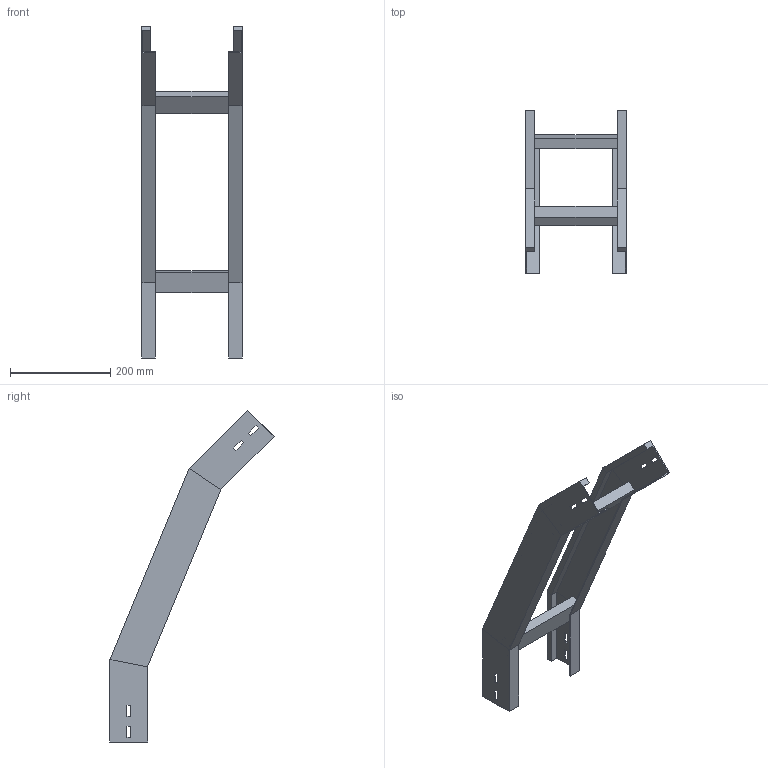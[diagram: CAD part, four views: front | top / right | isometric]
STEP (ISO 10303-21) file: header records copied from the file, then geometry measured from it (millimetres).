
FILE_DESCRIPTION (( 'STEP AP214' ), '1' );
FILE_NAME ('34B5C200.step', '2025-02-21T14:54:16', ( '' ), ( '' ), 'SwSTEP 2.0', 'SolidWorks 2023', '' );
FILE_SCHEMA (( 'AUTOMOTIVE_DESIGN' ));
Length unit declared in the file: millimetre
Products named in the file (3): 34B5C200; TRAVERSINO_200; LONGH.DISCESA_45°_H75_R500
Assembly tree (5 placements, depth 2):
  34B5C200
    LONGH.DISCESA_45°_H75_R500  x2
    TRAVERSINO_200  x3
Bounding box: 200 x 327.63 x 662.94 mm (x, y, z)
Volume: 1039400.1 mm3; surface area: 411198.9 mm2
Topology: 5 solids, 5 shells, 102 faces, 244 edges, 152 vertices
Faces by surface type: plane 102
Entity records: 1480 total; most frequent: CARTESIAN_POINT 244, ORIENTED_EDGE 232, DIRECTION 228, VECTOR 116, EDGE_CURVE 116, LINE 116, VERTEX_POINT 72, AXIS2_PLACEMENT_3D 56
